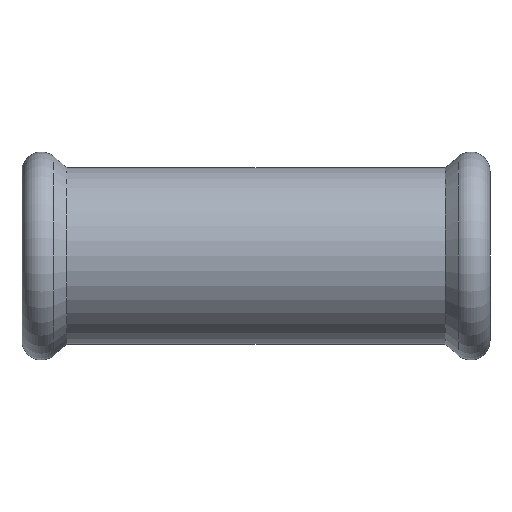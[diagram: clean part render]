
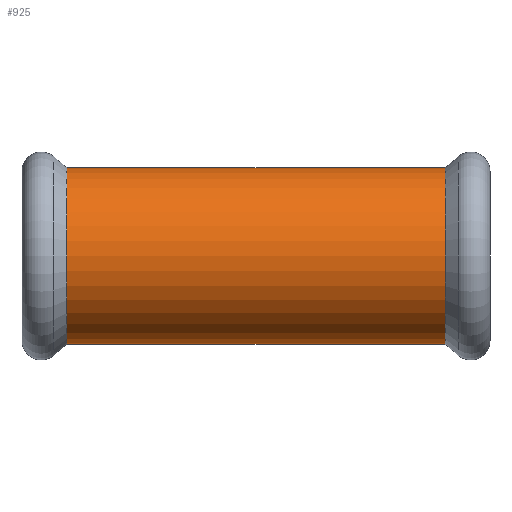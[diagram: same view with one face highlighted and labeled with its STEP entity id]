
A CAD part, front view. The second image highlights one B-rep face of the part: STEP entity #925.
In plain terms, the highlighted cylindrical face has radius 22.65 mm (diameter 45.3 mm), a partial arc.
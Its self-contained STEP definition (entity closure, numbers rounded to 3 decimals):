
#23 = LINE ( 'NONE', #540, #868 ) ;
#46 = AXIS2_PLACEMENT_3D ( 'NONE', #1211, #436, #343 ) ;
#58 = AXIS2_PLACEMENT_3D ( 'NONE', #294, #675, #302 ) ;
#99 = FACE_OUTER_BOUND ( 'NONE', #100, .T. ) ;
#100 = EDGE_LOOP ( 'NONE', ( #526, #396, #555, #681 ) ) ;
#131 = EDGE_CURVE ( 'NONE', #999, #1216, #1195, .T. ) ;
#132 = CARTESIAN_POINT ( 'NONE',  ( -48.495, 0., -22.65 ) ) ;
#135 = DIRECTION ( 'NONE',  ( -1., 0., 0. ) ) ;
#294 = CARTESIAN_POINT ( 'NONE',  ( 48.495, 0., 0. ) ) ;
#302 = DIRECTION ( 'NONE',  ( 0., 0., 1. ) ) ;
#343 = DIRECTION ( 'NONE',  ( 0., 0., 1. ) ) ;
#396 = ORIENTED_EDGE ( 'NONE', *, *, #582, .T. ) ;
#412 = EDGE_CURVE ( 'NONE', #443, #1096, #23, .T. ) ;
#436 = DIRECTION ( 'NONE',  ( -1., 0., 0. ) ) ;
#441 = CIRCLE ( 'NONE', #46, 22.65 ) ;
#443 = VERTEX_POINT ( 'NONE', #514 ) ;
#514 = CARTESIAN_POINT ( 'NONE',  ( 48.495, 0., 22.65 ) ) ;
#526 = ORIENTED_EDGE ( 'NONE', *, *, #131, .F. ) ;
#535 = DIRECTION ( 'NONE',  ( -1., 0., 0. ) ) ;
#540 = CARTESIAN_POINT ( 'NONE',  ( -84.842, 0., 22.65 ) ) ;
#541 = CARTESIAN_POINT ( 'NONE',  ( -84.842, 0., -22.65 ) ) ;
#555 = ORIENTED_EDGE ( 'NONE', *, *, #412, .T. ) ;
#579 = CYLINDRICAL_SURFACE ( 'NONE', #657, 22.65 ) ;
#582 = EDGE_CURVE ( 'NONE', #999, #443, #1193, .T. ) ;
#630 = CARTESIAN_POINT ( 'NONE',  ( -48.495, 0., 22.65 ) ) ;
#644 = CARTESIAN_POINT ( 'NONE',  ( 48.495, 0., -22.65 ) ) ;
#657 = AXIS2_PLACEMENT_3D ( 'NONE', #1077, #135, #1166 ) ;
#675 = DIRECTION ( 'NONE',  ( -1., 0., 0. ) ) ;
#681 = ORIENTED_EDGE ( 'NONE', *, *, #1052, .F. ) ;
#730 = DIRECTION ( 'NONE',  ( -1., 0., 0. ) ) ;
#745 = VECTOR ( 'NONE', #535, 1000. ) ;
#868 = VECTOR ( 'NONE', #730, 1000. ) ;
#925 = ADVANCED_FACE ( 'NONE', ( #99 ), #579, .T. ) ;
#999 = VERTEX_POINT ( 'NONE', #644 ) ;
#1052 = EDGE_CURVE ( 'NONE', #1216, #1096, #441, .T. ) ;
#1077 = CARTESIAN_POINT ( 'NONE',  ( -84.842, 0., 0. ) ) ;
#1096 = VERTEX_POINT ( 'NONE', #630 ) ;
#1166 = DIRECTION ( 'NONE',  ( 0., 0., 1. ) ) ;
#1193 = CIRCLE ( 'NONE', #58, 22.65 ) ;
#1195 = LINE ( 'NONE', #541, #745 ) ;
#1211 = CARTESIAN_POINT ( 'NONE',  ( -48.495, 0., 0. ) ) ;
#1216 = VERTEX_POINT ( 'NONE', #132 ) ;
